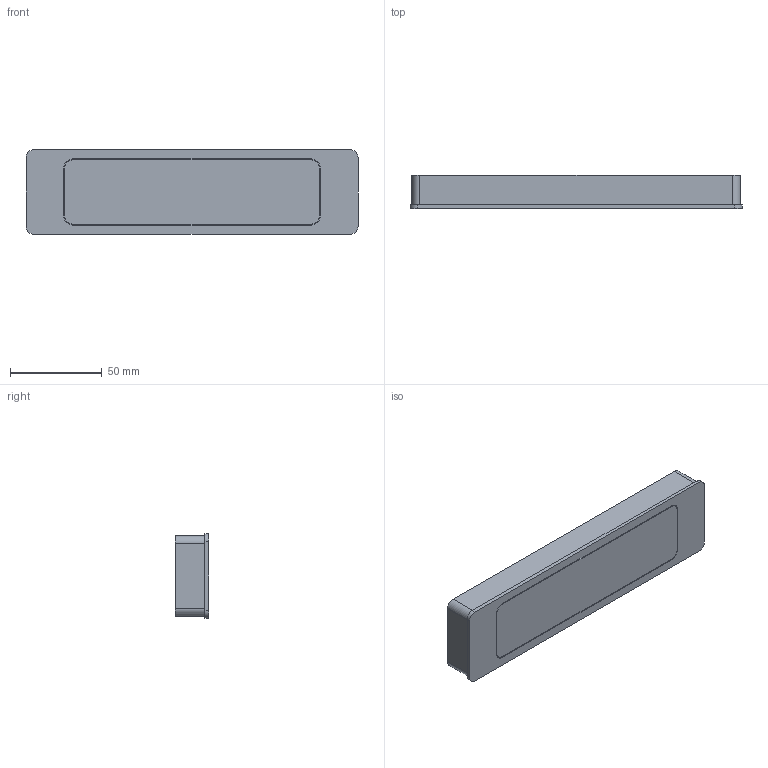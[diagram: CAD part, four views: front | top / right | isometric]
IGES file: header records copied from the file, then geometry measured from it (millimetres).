
Start section: Data from Parasolid IGES Translator 15.0.47, Copyright(c) 2006 Siemens P LM Software. All Rights Reserved.
Global section: file name: 9086687.igs; native system:  By UGS Corp.; preprocessor: XPlus GENERIC/IGES 3.0; author: Noname; organization: Noname; date: 20140122.180549; units: millimetre
Bounding box: 181 x 18 x 46 mm (x, y, z)
Surface area: 25468.7 mm2 (no closed solid volume)
Topology: 0 solids, 0 shells, 41 faces, 204 edges, 202 vertices
Faces by surface type: extrusion 23, revolution 18
